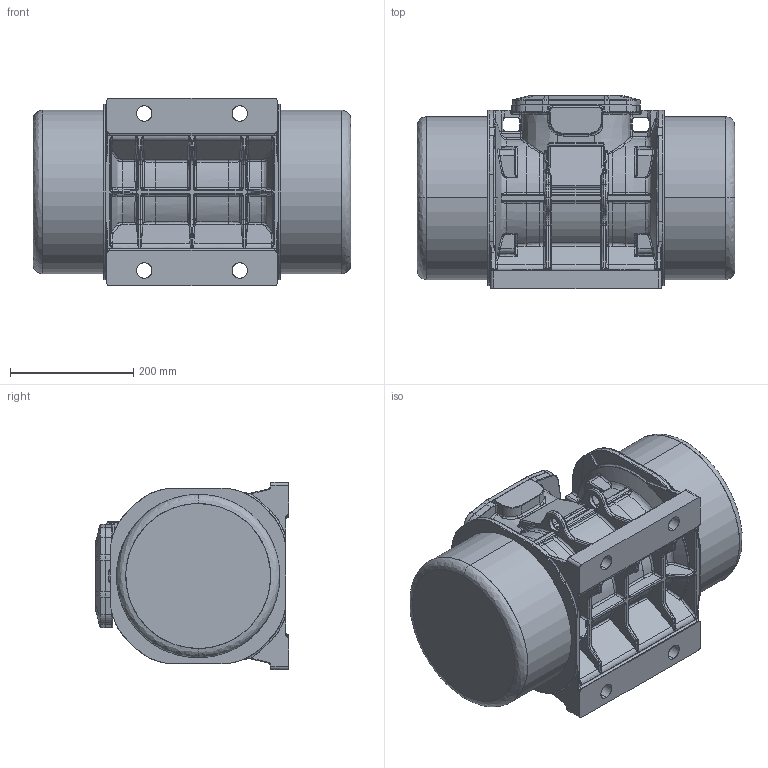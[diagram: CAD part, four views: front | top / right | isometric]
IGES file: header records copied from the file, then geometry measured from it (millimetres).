
Start section: SolidWorks IGES file using analytic representation for surfaces
Global section: file name: C:\Users\UT14\Desktop\DISEGNI_DI_INGOMBRO_RICCARDO\IGES\75-A0\MVE3200-3-36_MVE4000-3-36_MVE5000-36-MVE3800-18-75A0.IGS; native system: SolidWorks 2016; preprocessor: SolidWorks 2016; author: UT14; date: 180606.173214; units: millimetre
Bounding box: 516 x 314 x 304 mm (x, y, z)
Surface area: 872931.4 mm2 (no closed solid volume)
Topology: 0 solids, 0 shells, 1924 faces, 17902 edges, 17810 vertices
Faces by surface type: bspline 1129, revolution 795
